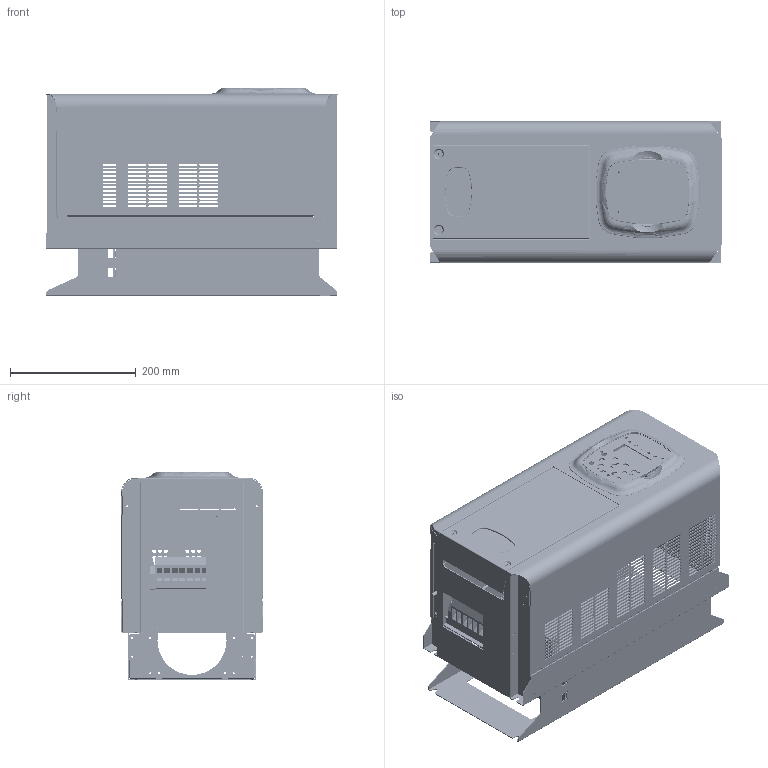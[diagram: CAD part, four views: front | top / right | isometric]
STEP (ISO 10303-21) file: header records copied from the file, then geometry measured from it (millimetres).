
FILE_DESCRIPTION( ( 'Unknown' ), '1' );
FILE_NAME( 'C:/Users/PRondell/Documents/USER/3D-S15/SINUS-PENTA-S15.stp', 'Unknown', ( 'Unknown' ), ( 'Unknown' ), 'PSStep 14.0', 'Unknown', ' ' );
FILE_SCHEMA( ( 'AUTOMOTIVE_DESIGN { 1 0 10303 214 1 1 1 1 }' ) );
Length unit declared in the file: millimetre
Products named in the file (33): CR0009200_3-8620-R07; CPDB040010; CPFB040000; CR0009200_1-8620-R07; CPDB040012; CR0009200_2-8620-R07; CPDB060015; CR0009200-8620-R07; CGDA390010; CR0009200_4-8620-R07; CR0009360-8628-R03; CGBF390009; CR0009360_1-8628-R03; CR0009360_2-8628-R03; Assieme-morsettiera_Sinus-Penta-S15; MR1500502-MORSETTO-CABUR-CBC16; BLOC-TERM-CABUR-BTU; MR1510502-PIAS-TERM-CABUR-CB161GR; Tastiera-Penta; PI0305010_2-8868; PI0305010_1-8868; Assieme-potenza_Sinus-Penta-S15; CR0009220-8621-R01; CR0009240-8622-R03; CR0009260-8623-R00; Assieme-gruppo-coperchio_Sinus-Penta-S15; PI0305012-8869-R04; CR0009326-8626-R04; Assem1; CR0009346-8627-R03
Assembly tree (63 placements, depth 5):
  Assem1
    CR0009346-8627-R03
    Assieme-potenza_Sinus-Penta-S15
      CR0009220-8621-R01
      CR0009240-8622-R03
      CR0009260-8623-R00
      CR0009200-8620-R07
        CGDA390010  x12
        CR0009200_4-8620-R07
        CR0009200_1-8620-R07
          CPDB040012  x6
          CR0009200_1-8620-R07
        CR0009200_2-8620-R07
          CPDB040010  x3
          CPDB060015
          CR0009200_2-8620-R07
        CR0009200_3-8620-R07
          CPDB040010  x2
          CPFB040000  x2
          CR0009200_3-8620-R07
      CR0009360-8628-R03
        CGBF390009  x3
        CR0009360_1-8628-R03
        CR0009360_2-8628-R03
      Assieme-morsettiera_Sinus-Penta-S15
        MR1500502-MORSETTO-CABUR-CBC16  x9
        BLOC-TERM-CABUR-BTU
        MR1510502-PIAS-TERM-CABUR-CB161GR
    Assieme-gruppo-coperchio_Sinus-Penta-S15
      PI0305012-8869-R04
      CR0009326-8626-R04
      Tastiera-Penta
        PI0305010_2-8868
        PI0305010_1-8868
Bounding box: 466 x 225 x 331.09 mm (x, y, z)
Volume: 1286284.4 mm3; surface area: 1682530.4 mm2
Topology: 54 solids, 54 shells, 4375 faces, 11796 edges, 7814 vertices
Faces by surface type: plane 2569, cylinder 1308, extrusion 243, cone 105, torus 79, bspline 69, revolution 2
Full cylindrical faces by diameter (mm): 1.9 x1, 2 x15, 2.2 x8, 2.4 x9, 2.8 x17, 3.1 x4, 3.3 x2, 3.5 x23, 3.7 x6, 3.9 x15, 4 x64, 4.2 x3, 4.5 x4, 4.9 x4, 5 x21, 5.4 x2, 5.5 x4, 6 x35, 7.2 x18, 8 x10, 9 x10, 11 x2, 110 x2
Entity records: 128648 total; most frequent: CARTESIAN_POINT 22102, DIRECTION 16942, ORIENTED_EDGE 16818, EDGE_CURVE 8409, AXIS2_PLACEMENT_3D 5803, VERTEX_POINT 5710, VECTOR 5334, LINE 5307
